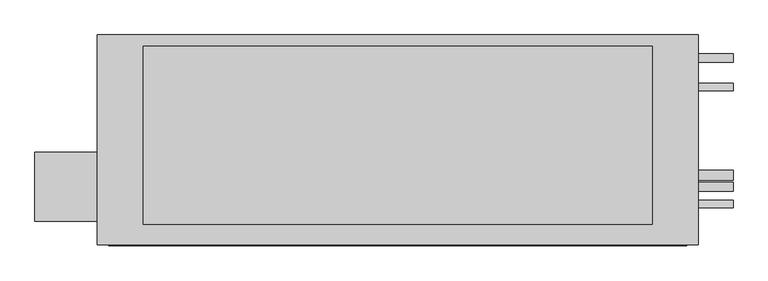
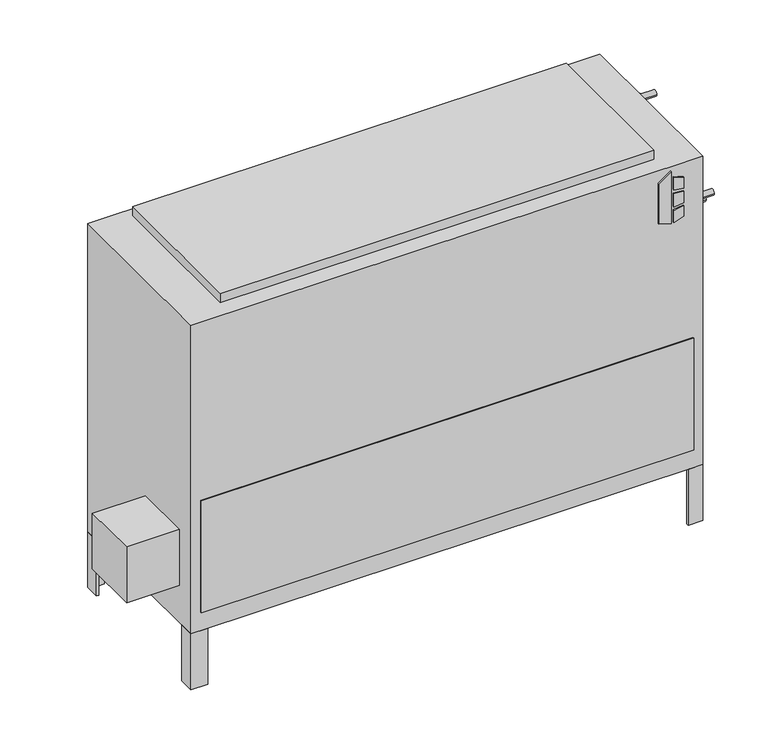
"""IFC4 building model written with IfcOpenShell, lengths in millimetres: proxy geometry, Concealed_High_Capacity_Vertical_Fan_Coil_Unit_-_VEY_-_IEC_-_4-Pipe_RH_2022 : Size 18 - 277v/60Hz/1Ph - 4/2 Coil."""

from ifc_helpers import new_model, si_unit, point, frame, frame_2d, origin, origin_with_axes, place, context, project, spatial, polyline, circle_curve, trimmed, segment, composite_curve, outline, extrude, source, transform, mapped, element, save


def mechanical_equipment_ac9d1e8d(model_context):
    return source(origin(), model_context, "Body", "SweptSolid", [
        extrude(outline(polyline([(698.9230703, 696.9868862), (688.975, 729.1602728), (831.1459244, 729.1602728), (808.1239183, 696.9868862), (698.9230703, 696.9868862)])), frame((0.0, -471.4875, 0.0), z_axis=(0.0, 1.0, 0.0), x_axis=(0.0, 0.0, 1.0)), (0.0, 0.0, 1.0), 3.175),
        extrude(outline(polyline([(777.9223557, 735.9186058), (774.7199632, 762.0), (803.9488042, 762.0), (812.0132193, 735.9186058), (777.9223557, 735.9186058)])), frame((0.0, -471.4875, 0.0), z_axis=(0.0, 1.0, 0.0), x_axis=(0.0, 0.0, 1.0)), (0.0, 0.0, 1.0), 3.175),
        extrude(outline(polyline([(726.0588288, 762.0), (722.3933279, 735.9186058), (688.975, 735.9186058), (697.6092372, 762.0), (726.0588288, 762.0)])), frame((0.0, -471.4875, 0.0), z_axis=(0.0, 1.0, 0.0), x_axis=(0.0, 0.0, 1.0)), (0.0, 0.0, 1.0), 3.175),
        extrude(outline(polyline([(765.3739903, 762.0), (767.6558166, 735.9186058), (731.7182681, 735.9186058), (734.4595331, 762.0), (765.3739903, 762.0)])), frame((0.0, -471.4875, 0.0), z_axis=(0.0, 1.0, 0.0), x_axis=(0.0, 0.0, 1.0)), (0.0, 0.0, 1.0), 3.175),
        extrude(outline(polyline([(-644.525, -417.5125), (-644.525, -265.1125), (-508.0, -265.1125), (-508.0, -417.5125), (-644.525, -417.5125)])), frame((0.0, 0.0, 101.6), z_axis=(0.0, 0.0, 1.0), x_axis=(1.0, 0.0, 0.0)), (0.0, 0.0, 1.0), 152.4),
        extrude(outline(polyline([(812.8, -46.0375), (806.45, -46.0375), (806.45, -14.2875), (774.7, -14.2875), (774.7, -7.9375), (812.8, -7.9375), (812.8, -46.0375)])), frame((0.0, 0.0, -152.4), z_axis=(0.0, 0.0, 1.0), x_axis=(1.0, 0.0, 0.0)), (0.0, 0.0, 1.0), 152.4),
        extrude(outline(polyline([(-469.9, -7.9375), (-469.9, -14.2875), (-501.65, -14.2875), (-501.65, -46.0375), (-508.0, -46.0375), (-508.0, -7.9375), (-469.9, -7.9375)])), frame((0.0, 0.0, -152.4), z_axis=(0.0, 0.0, 1.0), x_axis=(1.0, 0.0, 0.0)), (0.0, 0.0, 1.0), 152.4),
        extrude(outline(polyline([(774.7, -468.3125), (774.7, -461.9625), (806.45, -461.9625), (806.45, -430.2125), (812.8, -430.2125), (812.8, -468.3125), (774.7, -468.3125)])), frame((0.0, 0.0, -152.4), z_axis=(0.0, 0.0, 1.0), x_axis=(1.0, 0.0, 0.0)), (0.0, 0.0, 1.0), 152.4),
        extrude(outline(polyline([(-508.0, -428.1199163), (-501.65, -428.1199163), (-501.65, -461.9625), (-464.5318533, -461.9625), (-464.5318533, -468.3125), (-508.0, -468.3125), (-508.0, -428.1199163)])), frame((0.0, 0.0, -152.4), z_axis=(0.0, 0.0, 1.0), x_axis=(1.0, 0.0, 0.0)), (0.0, 0.0, 1.0), 152.4),
        extrude(outline(polyline([(711.2, -33.3375), (711.2, -423.8625), (-406.4, -423.8625), (-406.4, -33.3375), (711.2, -33.3375)])), frame((0.0, 0.0, 841.375), z_axis=(0.0, 0.0, 1.0), x_axis=(1.0, 0.0, 0.0)), (0.0, 0.0, 1.0), 25.4),
        extrude(outline(polyline([(787.4, -471.4875), (-482.6, -471.4875), (-482.6, -468.3125), (787.4, -468.3125), (787.4, -471.4875)])), frame((0.0, 0.0, 50.8), z_axis=(0.0, 0.0, 1.0), x_axis=(1.0, 0.0, 0.0)), (0.0, 0.0, 1.0), 304.8),
        extrude(outline(composite_curve([segment(trimmed(circle_curve(frame_2d((-122.2375, 777.875)), 7.9375), [point((-114.3, 777.875))], [point((-130.175, 777.875))], False, "CARTESIAN"), True, "CONTINUOUS"), segment(trimmed(circle_curve(frame_2d((-122.2375, 777.875)), 7.9375), [point((-130.175, 777.875))], [point((-114.3, 777.875))], False, "CARTESIAN"), True, "CONTINUOUS")], self_intersect=False)), frame((812.8, 0.0, 0.0), z_axis=(1.0, 0.0, 0.0), x_axis=(0.0, 1.0, 0.0)), (0.0, 0.0, 1.0), 76.2),
        extrude(outline(composite_curve([segment(trimmed(circle_curve(frame_2d((-379.4125, 663.575)), 7.9375), [point((-371.475, 663.575))], [point((-387.35, 663.575))], False, "CARTESIAN"), True, "CONTINUOUS"), segment(trimmed(circle_curve(frame_2d((-379.4125, 663.575)), 7.9375), [point((-387.35, 663.575))], [point((-371.475, 663.575))], False, "CARTESIAN"), True, "CONTINUOUS")], self_intersect=False)), frame((812.8, 0.0, 0.0), z_axis=(1.0, 0.0, 0.0), x_axis=(0.0, 1.0, 0.0)), (0.0, 0.0, 1.0), 76.2),
        extrude(outline(composite_curve([segment(trimmed(circle_curve(frame_2d((-58.7375, 727.075)), 9.525), [point((-49.2125, 727.075))], [point((-68.2625, 727.075))], False, "CARTESIAN"), True, "CONTINUOUS"), segment(trimmed(circle_curve(frame_2d((-58.7375, 727.075)), 9.525), [point((-68.2625, 727.075))], [point((-49.2125, 727.075))], False, "CARTESIAN"), True, "CONTINUOUS")], self_intersect=False)), frame((812.8, 0.0, 0.0), z_axis=(1.0, 0.0, 0.0), x_axis=(0.0, 1.0, 0.0)), (0.0, 0.0, 1.0), 76.2),
        extrude(outline(composite_curve([segment(trimmed(circle_curve(frame_2d((-341.3125, 625.475)), 9.525), [point((-331.7875, 625.475))], [point((-350.8375, 625.475))], False, "CARTESIAN"), True, "CONTINUOUS"), segment(trimmed(circle_curve(frame_2d((-341.3125, 625.475)), 9.525), [point((-350.8375, 625.475))], [point((-331.7875, 625.475))], False, "CARTESIAN"), True, "CONTINUOUS")], self_intersect=False)), frame((812.8, 0.0, 0.0), z_axis=(1.0, 0.0, 0.0), x_axis=(0.0, 1.0, 0.0)), (0.0, 0.0, 1.0), 76.2),
        extrude(outline(composite_curve([segment(trimmed(circle_curve(frame_2d((-315.9125, 536.575)), 11.1125), [point((-304.8, 536.575))], [point((-327.025, 536.575))], False, "CARTESIAN"), True, "CONTINUOUS"), segment(trimmed(circle_curve(frame_2d((-315.9125, 536.575)), 11.1125), [point((-327.025, 536.575))], [point((-304.8, 536.575))], False, "CARTESIAN"), True, "CONTINUOUS")], self_intersect=False)), frame((812.8, 0.0, 0.0), z_axis=(1.0, 0.0, 0.0), x_axis=(0.0, 1.0, 0.0)), (0.0, 0.0, 1.0), 76.2),
        extrude(outline(polyline([(812.8, -7.9375), (812.8, -468.3125), (-508.0, -468.3125), (-508.0, -7.9375), (812.8, -7.9375)])), origin_with_axes(), (0.0, 0.0, 1.0), 841.375),
    ])


if __name__ == "__main__":
    model = new_model("IFC4")
    model_context = context("Model", 3, world=origin())
    ifc_project = project(units=[si_unit("LENGTHUNIT", "METRE", prefix="MILLI")], contexts=[model_context])
    site = spatial("IfcSite", under=ifc_project)
    building = spatial("IfcBuilding", under=site)
    placement = place(None, origin())
    mechanical_equipment_shape = mechanical_equipment_ac9d1e8d(model_context)
    element("IfcBuildingElementProxy", 1, Name="Concealed_High_Capacity_Vertical_Fan_Coil_Unit_-_VEY_-_IEC_-_4-Pipe_RH_2022 : Size 18 - 277v/60Hz/1Ph - 4/2 Coil", ObjectType="Concealed_High_Capacity_Vertical_Fan_Coil_Unit_-_VEY_-_IEC_-_4-Pipe_RH_2022 : Size 18 - 277v/60Hz/1Ph - 4/2 Coil", at=placement, inside=building, context=model_context, shape_type="MappedRepresentation", body=[
        mapped(mechanical_equipment_shape, transform((0.0, 0.0, 0.0), x_axis=(1.0, 0.0, 0.0), y_axis=(0.0, 1.0, 0.0), z_axis=(0.0, 0.0, 1.0))),
    ])
    save(model, "model.ifc")
